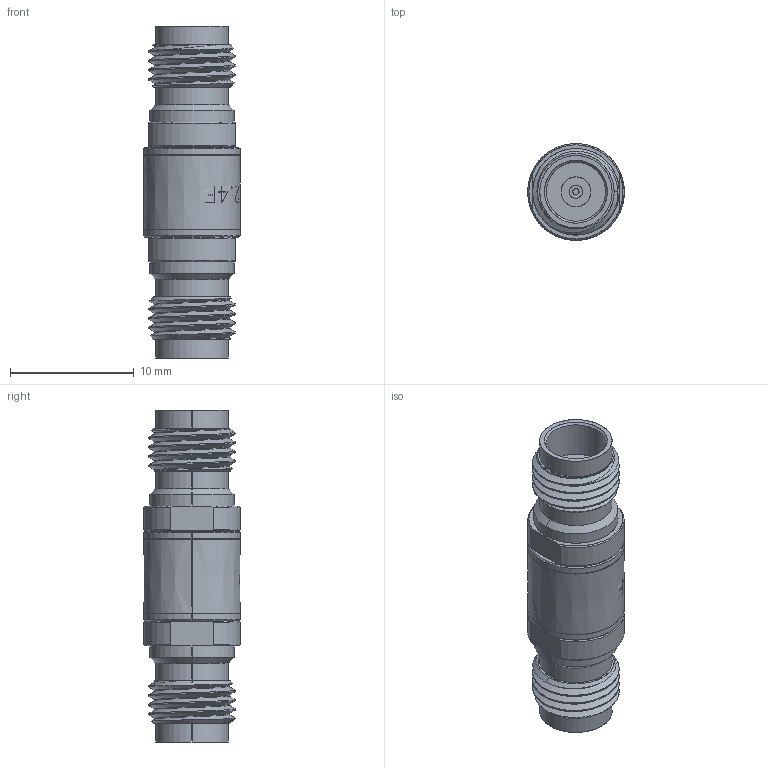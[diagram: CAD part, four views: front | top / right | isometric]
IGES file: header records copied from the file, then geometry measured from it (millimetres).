
Start section: SolidWorks IGES file using analytic representation for surfaces
Global section: file name: C:\Users\sculpepper\Desktop\8028000K001-803-C\8028000K001-803-Cigs.IGS; native system: SolidWorks 2019; preprocessor: SolidWorks 2019; author: sculpepper; date: 201029.164958; units: inch
Bounding box: 7.81 x 7.8 x 26.8 mm (x, y, z)
Surface area: 939.9 mm2 (no closed solid volume)
Topology: 0 solids, 0 shells, 254 faces, 2882 edges, 2882 vertices
Faces by surface type: bspline 151, revolution 103
